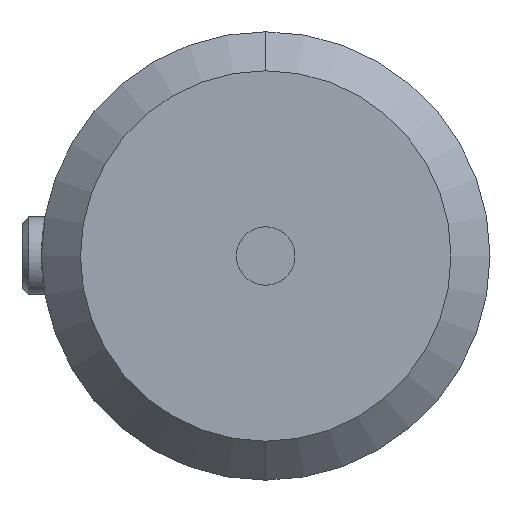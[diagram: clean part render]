
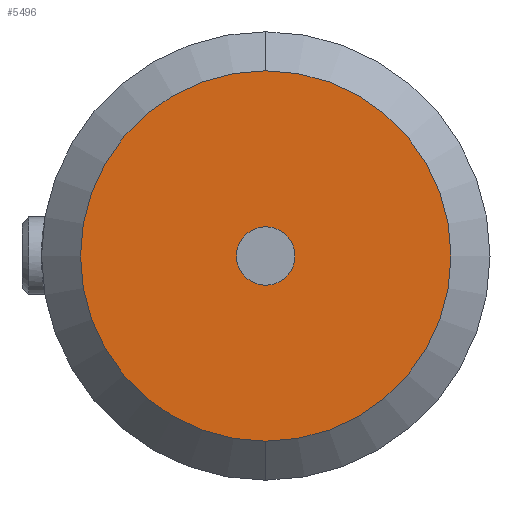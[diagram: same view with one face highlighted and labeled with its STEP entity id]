
A CAD part, left-side view. The second image highlights one B-rep face of the part: STEP entity #5496.
In plain terms, the highlighted planar face has unit normal (-1, 0, 0).
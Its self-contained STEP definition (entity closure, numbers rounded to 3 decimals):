
#2 = DIRECTION ( 'NONE',  ( 0., 0., -1. ) ) ;
#176 = DIRECTION ( 'NONE',  ( -1., 0., 0. ) ) ;
#907 = EDGE_CURVE ( 'NONE', #6077, #5913, #6526, .T. ) ;
#1028 = CARTESIAN_POINT ( 'NONE',  ( -21.134, 0., 9.5 ) ) ;
#1059 = DIRECTION ( 'NONE',  ( 1., 0., 0. ) ) ;
#1110 = DIRECTION ( 'NONE',  ( -1., 0., 0. ) ) ;
#1295 = ORIENTED_EDGE ( 'NONE', *, *, #5700, .T. ) ;
#1308 = AXIS2_PLACEMENT_3D ( 'NONE', #5440, #3736, #6638 ) ;
#1514 = DIRECTION ( 'NONE',  ( 0., 0., -1. ) ) ;
#1762 = ORIENTED_EDGE ( 'NONE', *, *, #2001, .T. ) ;
#1804 = CARTESIAN_POINT ( 'NONE',  ( -21.134, 0., 1.5 ) ) ;
#2001 = EDGE_CURVE ( 'NONE', #5639, #3097, #5482, .T. ) ;
#2252 = AXIS2_PLACEMENT_3D ( 'NONE', #6647, #6538, #1514 ) ;
#2584 = ORIENTED_EDGE ( 'NONE', *, *, #5352, .T. ) ;
#2652 = CARTESIAN_POINT ( 'NONE',  ( -21.134, 0., -1.5 ) ) ;
#2701 = FACE_OUTER_BOUND ( 'NONE', #3497, .T. ) ;
#2734 = CIRCLE ( 'NONE', #4187, 9.5 ) ;
#2736 = CARTESIAN_POINT ( 'NONE',  ( -21.134, 0., 0. ) ) ;
#3097 = VERTEX_POINT ( 'NONE', #1804 ) ;
#3354 = DIRECTION ( 'NONE',  ( 0., 0., -1. ) ) ;
#3428 = AXIS2_PLACEMENT_3D ( 'NONE', #5241, #176, #4683 ) ;
#3497 = EDGE_LOOP ( 'NONE', ( #4639, #1295 ) ) ;
#3736 = DIRECTION ( 'NONE',  ( 1., 0., 0. ) ) ;
#4187 = AXIS2_PLACEMENT_3D ( 'NONE', #5236, #1110, #2 ) ;
#4542 = AXIS2_PLACEMENT_3D ( 'NONE', #2736, #1059, #3354 ) ;
#4550 = CIRCLE ( 'NONE', #1308, 1.5 ) ;
#4639 = ORIENTED_EDGE ( 'NONE', *, *, #907, .T. ) ;
#4683 = DIRECTION ( 'NONE',  ( 0., 0., -1. ) ) ;
#5236 = CARTESIAN_POINT ( 'NONE',  ( -21.134, 0., 0. ) ) ;
#5241 = CARTESIAN_POINT ( 'NONE',  ( -21.134, 0., 0. ) ) ;
#5352 = EDGE_CURVE ( 'NONE', #3097, #5639, #4550, .T. ) ;
#5440 = CARTESIAN_POINT ( 'NONE',  ( -21.134, 0., 0. ) ) ;
#5482 = CIRCLE ( 'NONE', #2252, 1.5 ) ;
#5496 = ADVANCED_FACE ( 'NONE', ( #2701, #6755 ), #7364, .F. ) ;
#5639 = VERTEX_POINT ( 'NONE', #2652 ) ;
#5700 = EDGE_CURVE ( 'NONE', #5913, #6077, #2734, .T. ) ;
#5913 = VERTEX_POINT ( 'NONE', #1028 ) ;
#6077 = VERTEX_POINT ( 'NONE', #6293 ) ;
#6143 = EDGE_LOOP ( 'NONE', ( #1762, #2584 ) ) ;
#6293 = CARTESIAN_POINT ( 'NONE',  ( -21.134, 0., -9.5 ) ) ;
#6526 = CIRCLE ( 'NONE', #3428, 9.5 ) ;
#6538 = DIRECTION ( 'NONE',  ( 1., 0., 0. ) ) ;
#6638 = DIRECTION ( 'NONE',  ( 0., 0., -1. ) ) ;
#6647 = CARTESIAN_POINT ( 'NONE',  ( -21.134, 0., 0. ) ) ;
#6755 = FACE_BOUND ( 'NONE', #6143, .T. ) ;
#7364 = PLANE ( 'NONE',  #4542 ) ;
